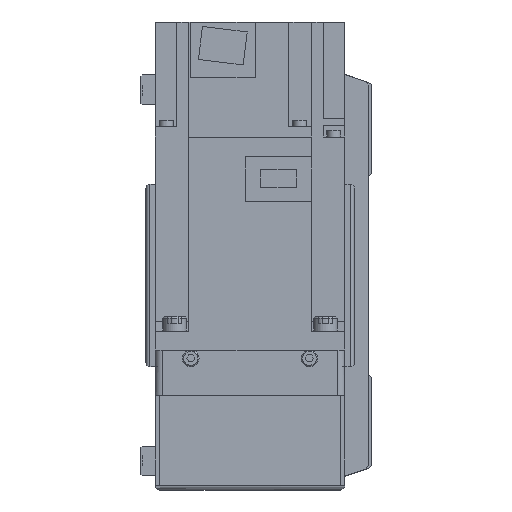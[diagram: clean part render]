
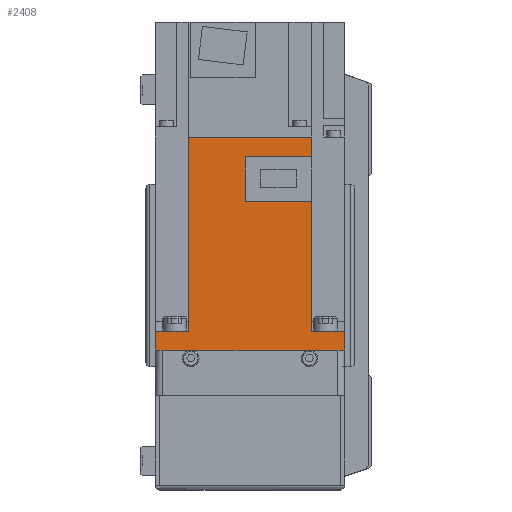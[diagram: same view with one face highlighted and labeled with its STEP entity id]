
A CAD part, left-side view. The second image highlights one B-rep face of the part: STEP entity #2408.
In plain terms, the highlighted planar face has unit normal (-1, 0, 0) as drawn and (1, 0, 0) by its records, which use the part's own axes.
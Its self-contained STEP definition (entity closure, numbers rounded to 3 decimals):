
#2408 = ADVANCED_FACE( '', ( #5266 ), #5267, .F. );
#5266 = FACE_OUTER_BOUND( '', #8574, .T. );
#5267 = PLANE( '', #8575 );
#8574 = EDGE_LOOP( '', ( #15307, #15308, #15309, #15310, #15311, #15312, #15313, #15314, #15315, #15316, #15317, #15318 ) );
#8575 = AXIS2_PLACEMENT_3D( '', #15319, #15320, #15321 );
#15307 = ORIENTED_EDGE( '', *, *, #21548, .F. );
#15308 = ORIENTED_EDGE( '', *, *, #21549, .F. );
#15309 = ORIENTED_EDGE( '', *, *, #20662, .F. );
#15310 = ORIENTED_EDGE( '', *, *, #19549, .T. );
#15311 = ORIENTED_EDGE( '', *, *, #20589, .F. );
#15312 = ORIENTED_EDGE( '', *, *, #19686, .T. );
#15313 = ORIENTED_EDGE( '', *, *, #21550, .T. );
#15314 = ORIENTED_EDGE( '', *, *, #20210, .F. );
#15315 = ORIENTED_EDGE( '', *, *, #21485, .F. );
#15316 = ORIENTED_EDGE( '', *, *, #21551, .F. );
#15317 = ORIENTED_EDGE( '', *, *, #21552, .F. );
#15318 = ORIENTED_EDGE( '', *, *, #19828, .F. );
#15319 = CARTESIAN_POINT( '', ( 40., 89.8, 40. ) );
#15320 = DIRECTION( '', ( -1., 0., 0. ) );
#15321 = DIRECTION( '', ( 0., 0., 1. ) );
#19549 = EDGE_CURVE( '', #23587, #23585, #23588, .T. );
#19686 = EDGE_CURVE( '', #23815, #23813, #23816, .T. );
#19828 = EDGE_CURVE( '', #24046, #24047, #24048, .T. );
#20210 = EDGE_CURVE( '', #24666, #24668, #24669, .T. );
#20589 = EDGE_CURVE( '', #23815, #23585, #25258, .T. );
#20662 = EDGE_CURVE( '', #23587, #25362, #25364, .T. );
#21485 = EDGE_CURVE( '', #26543, #24666, #26544, .T. );
#21548 = EDGE_CURVE( '', #26051, #24046, #26621, .T. );
#21549 = EDGE_CURVE( '', #25362, #26051, #26622, .T. );
#21550 = EDGE_CURVE( '', #23813, #24668, #26623, .T. );
#21551 = EDGE_CURVE( '', #26052, #26543, #26624, .T. );
#21552 = EDGE_CURVE( '', #24047, #26052, #26625, .T. );
#23585 = VERTEX_POINT( '', #29343 );
#23587 = VERTEX_POINT( '', #29346 );
#23588 = LINE( '', #29347, #29348 );
#23813 = VERTEX_POINT( '', #29676 );
#23815 = VERTEX_POINT( '', #29679 );
#23816 = LINE( '', #29680, #29681 );
#24046 = VERTEX_POINT( '', #29982 );
#24047 = VERTEX_POINT( '', #29983 );
#24048 = LINE( '', #29984, #29985 );
#24666 = VERTEX_POINT( '', #30887 );
#24668 = VERTEX_POINT( '', #30890 );
#24669 = LINE( '', #30891, #30892 );
#25258 = LINE( '', #31743, #31744 );
#25362 = VERTEX_POINT( '', #31889 );
#25364 = LINE( '', #31892, #31893 );
#26051 = VERTEX_POINT( '', #32971 );
#26052 = VERTEX_POINT( '', #32972 );
#26543 = VERTEX_POINT( '', #33814 );
#26544 = LINE( '', #33815, #33816 );
#26621 = LINE( '', #33940, #33941 );
#26622 = LINE( '', #33942, #33943 );
#26623 = LINE( '', #33944, #33945 );
#26624 = LINE( '', #33946, #33947 );
#26625 = LINE( '', #33948, #33949 );
#29343 = CARTESIAN_POINT( '', ( 40., 8., 25.95 ) );
#29346 = CARTESIAN_POINT( '', ( 40., 89.8, 25.95 ) );
#29347 = CARTESIAN_POINT( '', ( 40., 158., 25.95 ) );
#29348 = VECTOR( '', #36124, 1000. );
#29676 = CARTESIAN_POINT( '', ( 40., 0., 40. ) );
#29679 = CARTESIAN_POINT( '', ( 40., 8., 40. ) );
#29680 = CARTESIAN_POINT( '', ( 40., 89.8, 40. ) );
#29681 = VECTOR( '', #36280, 1000. );
#29982 = CARTESIAN_POINT( '', ( 40., 81.4, 1.8 ) );
#29983 = CARTESIAN_POINT( '', ( 40., 62.8, 1.8 ) );
#29984 = CARTESIAN_POINT( '', ( 40., 81.4, 1.8 ) );
#29985 = VECTOR( '', #36463, 1000. );
#30887 = CARTESIAN_POINT( '', ( 40., 8., -40. ) );
#30890 = CARTESIAN_POINT( '', ( 40., 0., -40. ) );
#30891 = CARTESIAN_POINT( '', ( 40., 89.8, -40. ) );
#30892 = VECTOR( '', #36926, 1000. );
#31743 = CARTESIAN_POINT( '', ( 40., 8., 40. ) );
#31744 = VECTOR( '', #37409, 1000. );
#31889 = CARTESIAN_POINT( '', ( 40., 89.8, -25.95 ) );
#31892 = CARTESIAN_POINT( '', ( 40., 89.8, 40. ) );
#31893 = VECTOR( '', #37500, 1000. );
#32971 = CARTESIAN_POINT( '', ( 40., 81.4, -25.95 ) );
#32972 = CARTESIAN_POINT( '', ( 40., 62.8, -25.95 ) );
#33814 = CARTESIAN_POINT( '', ( 40., 8., -25.95 ) );
#33815 = CARTESIAN_POINT( '', ( 40., 8., 40. ) );
#33816 = VECTOR( '', #38453, 1000. );
#33940 = CARTESIAN_POINT( '', ( 40., 81.4, -26. ) );
#33941 = VECTOR( '', #38505, 1000. );
#33942 = CARTESIAN_POINT( '', ( 40., 158., -25.95 ) );
#33943 = VECTOR( '', #38506, 1000. );
#33944 = CARTESIAN_POINT( '', ( 40., 0., 40. ) );
#33945 = VECTOR( '', #38507, 1000. );
#33946 = CARTESIAN_POINT( '', ( 40., 158., -25.95 ) );
#33947 = VECTOR( '', #38508, 1000. );
#33948 = CARTESIAN_POINT( '', ( 40., 62.8, 1.8 ) );
#33949 = VECTOR( '', #38509, 1000. );
#36124 = DIRECTION( '', ( 0., -1., 0. ) );
#36280 = DIRECTION( '', ( 0., -1., 0. ) );
#36463 = DIRECTION( '', ( 0., -1., 0. ) );
#36926 = DIRECTION( '', ( 0., -1., 0. ) );
#37409 = DIRECTION( '', ( 0., 0., -1. ) );
#37500 = DIRECTION( '', ( 0., 0., -1. ) );
#38453 = DIRECTION( '', ( 0., 0., -1. ) );
#38505 = DIRECTION( '', ( 0., 0., 1. ) );
#38506 = DIRECTION( '', ( 0., -1., 0. ) );
#38507 = DIRECTION( '', ( 0., 0., -1. ) );
#38508 = DIRECTION( '', ( 0., -1., 0. ) );
#38509 = DIRECTION( '', ( 0., 0., -1. ) );
